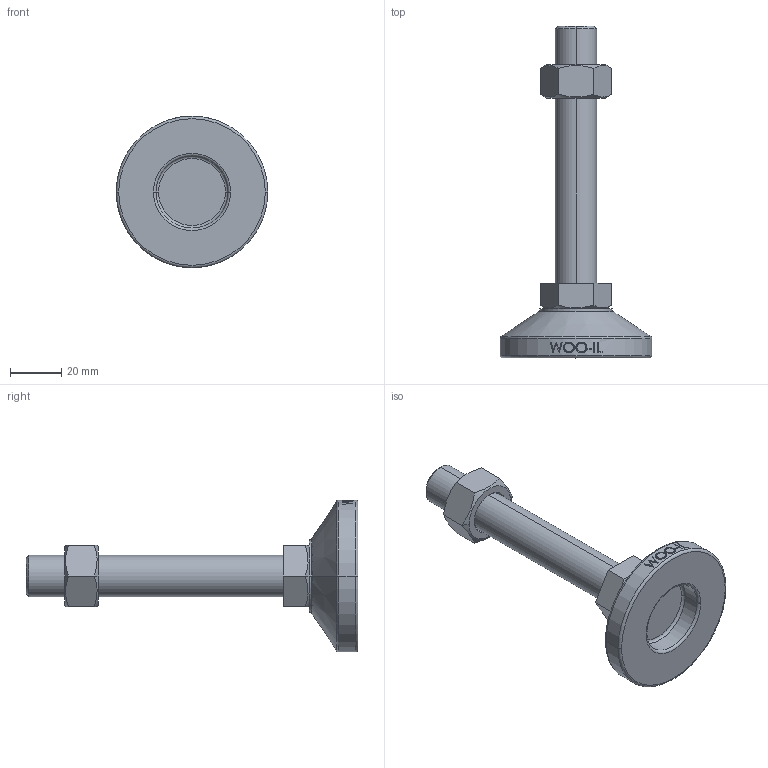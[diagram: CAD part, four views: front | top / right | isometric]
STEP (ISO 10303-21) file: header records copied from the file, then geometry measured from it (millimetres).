
FILE_DESCRIPTION (( 'STEP AP214' ), '1' );
FILE_NAME ('MF59-M16-100.step', '2021-02-03T08:17:50', ( '' ), ( '' ), 'SwSTEP 2.0', 'SolidWorks 2019', '' );
FILE_SCHEMA (( 'AUTOMOTIVE_DESIGN' ));
Length unit declared in the file: millimetre
Products named in the file (2): MF59-M16-100
Bounding box: 59 x 129 x 59 mm (x, y, z)
Volume: 61800.5 mm3; surface area: 17036.5 mm2
Topology: 3 solids, 3 shells, 106 faces, 243 edges, 154 vertices
Faces by surface type: plane 48, cylinder 18, bspline 16, cone 14, torus 10
Entity records: 4448 total; most frequent: CARTESIAN_POINT 2105, ORIENTED_EDGE 486, DIRECTION 439, EDGE_CURVE 243, AXIS2_PLACEMENT_3D 170, VERTEX_POINT 154, EDGE_LOOP 119, FACE_OUTER_BOUND 106
